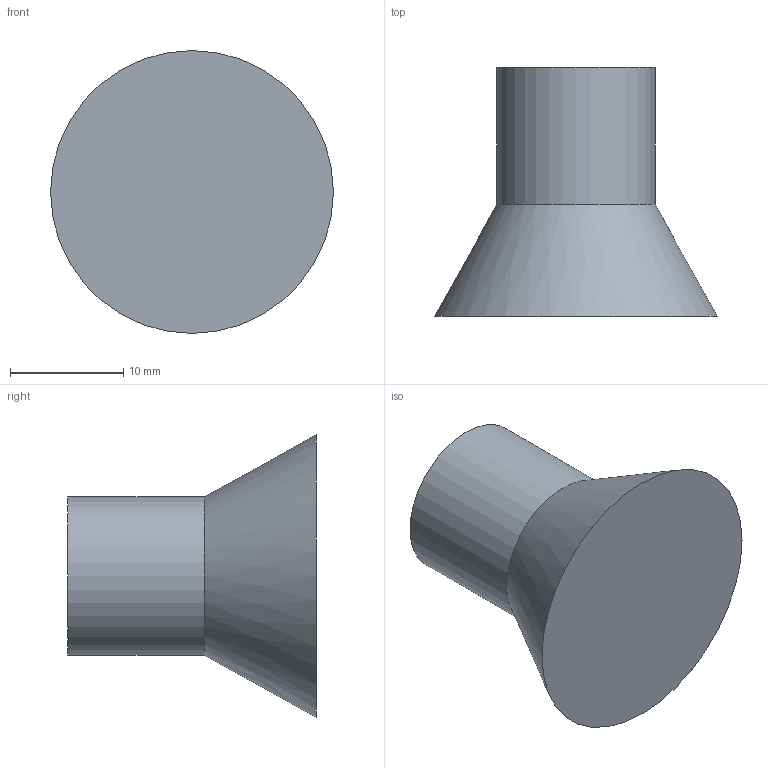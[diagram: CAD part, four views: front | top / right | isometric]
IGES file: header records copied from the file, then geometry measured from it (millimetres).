
Start section: Data from Parasolid IGES Translator 15.0.47, Copyright(c) 2006 Siemens P LM Software. All Rights Reserved.
Global section: file name: 9070740.igs; native system:  By UGS Corp.; preprocessor: XPlus GENERIC/IGES 3.0; author: Noname; organization: Noname; date: 20140122.174716; units: millimetre
Bounding box: 25 x 22 x 25 mm (x, y, z)
Surface area: 1980.7 mm2 (no closed solid volume)
Topology: 0 solids, 0 shells, 6 faces, 18 edges, 14 vertices
Faces by surface type: extrusion 3, revolution 3
